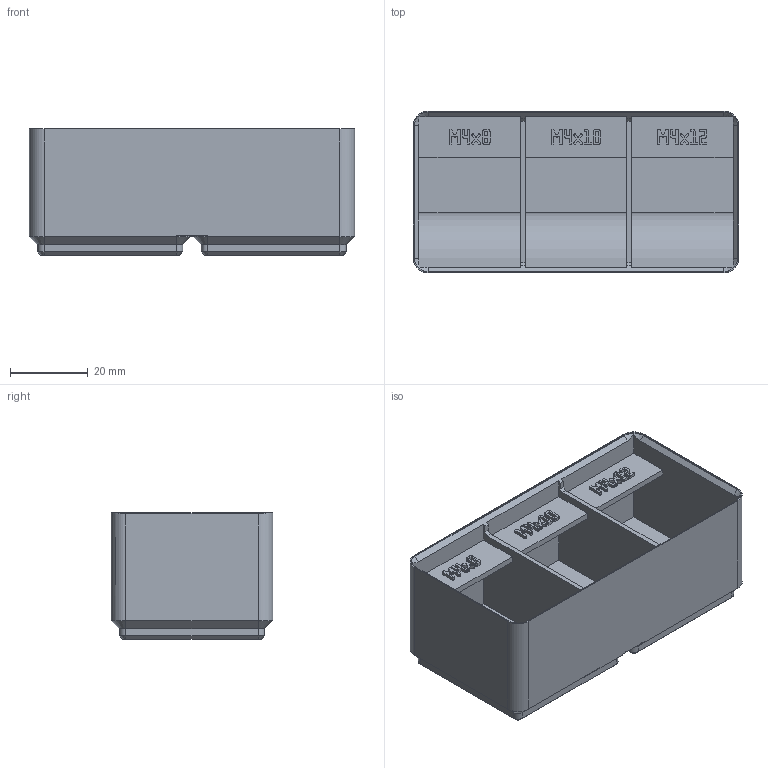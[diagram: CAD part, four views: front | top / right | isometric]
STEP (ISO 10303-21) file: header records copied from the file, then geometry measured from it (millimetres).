
FILE_DESCRIPTION(('Open CASCADE Model'),'2;1');
FILE_NAME('Open CASCADE Shape Model','2026-11-16T13:40:22',('Author'),( 'Open CASCADE'),'Open CASCADE STEP processor 8.0','build123d', 'Unknown');
FILE_SCHEMA(('AUTOMOTIVE_DESIGN { 1 0 10303 214 1 1 1 1 }'));
Products named in the file (1): SOLID
Bounding box: 83.5 x 41.5 x 32.4 mm (x, y, z)
Volume: 46152.1 mm3; surface area: 23529.6 mm2
Topology: 1 solids, 1 shells, 1481 faces, 4321 edges, 2862 vertices
Faces by surface type: plane 1438, cylinder 23, cone 20
Entity records: 101158 total; most frequent: CARTESIAN_POINT 20476, DIRECTION 12937, LINE 9818, VECTOR 9818, ORIENTED_EDGE 8642, PCURVE 8642, DEFINITIONAL_REPRESENTATION 8642, EDGE_CURVE 4321
